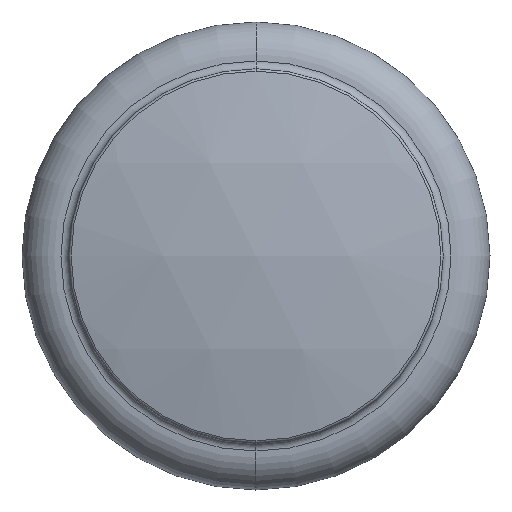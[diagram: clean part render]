
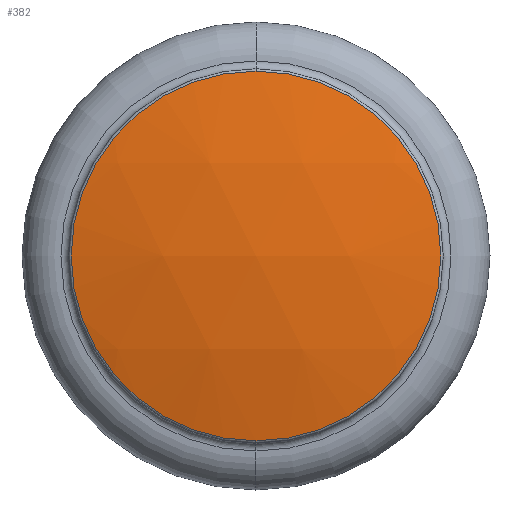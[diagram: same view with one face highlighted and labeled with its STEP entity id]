
A CAD part, front view. The second image highlights one B-rep face of the part: STEP entity #382.
In plain terms, the highlighted spherical face has radius 48.75 mm.
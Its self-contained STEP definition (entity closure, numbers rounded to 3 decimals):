
#182 = EDGE_CURVE( '', #454, #368, #490, .T. );
#228 = EDGE_CURVE( '', #368, #358, #539, .T. );
#304 = EDGE_CURVE( '', #358, #454, #624, .T. );
#358 = VERTEX_POINT( '', #686 );
#368 = VERTEX_POINT( '', #700 );
#382 = ADVANCED_FACE( '', ( #714 ), #715, .T. );
#454 = VERTEX_POINT( '', #788 );
#490 = CIRCLE( '', #817, 11.849 );
#539 = CIRCLE( '', #882, 11.849 );
#624 = CIRCLE( '', #989, 11.849 );
#686 = CARTESIAN_POINT( '', ( -11.849, -21.538, 0. ) );
#700 = CARTESIAN_POINT( '', ( 0., -21.538, 11.849 ) );
#714 = FACE_OUTER_BOUND( '', #1096, .T. );
#715 = SPHERICAL_SURFACE( '', #1097, 48.75 );
#788 = CARTESIAN_POINT( '', ( 0., -21.538, -11.849 ) );
#817 = AXIS2_PLACEMENT_3D( '', #1227, #1228, #1229 );
#882 = AXIS2_PLACEMENT_3D( '', #1287, #1288, #1289 );
#989 = AXIS2_PLACEMENT_3D( '', #1414, #1415, #1416 );
#1096 = EDGE_LOOP( '', ( #1565, #1566, #1567 ) );
#1097 = AXIS2_PLACEMENT_3D( '', #1568, #1569, #1570 );
#1227 = CARTESIAN_POINT( '', ( 0., -21.538, 0. ) );
#1228 = DIRECTION( '', ( 0., -1., 0. ) );
#1229 = DIRECTION( '', ( -1., 0., 0. ) );
#1287 = CARTESIAN_POINT( '', ( 0., -21.538, 0. ) );
#1288 = DIRECTION( '', ( 0., -1., 0. ) );
#1289 = DIRECTION( '', ( -1., 0., 0. ) );
#1414 = CARTESIAN_POINT( '', ( 0., -21.538, 0. ) );
#1415 = DIRECTION( '', ( 0., -1., 0. ) );
#1416 = DIRECTION( '', ( -1., 0., 0. ) );
#1565 = ORIENTED_EDGE( '', *, *, #304, .T. );
#1566 = ORIENTED_EDGE( '', *, *, #182, .T. );
#1567 = ORIENTED_EDGE( '', *, *, #228, .T. );
#1568 = CARTESIAN_POINT( '', ( 0., 25.75, 0. ) );
#1569 = DIRECTION( '', ( 0., 0., 1. ) );
#1570 = DIRECTION( '', ( 1., 0., 0. ) );
